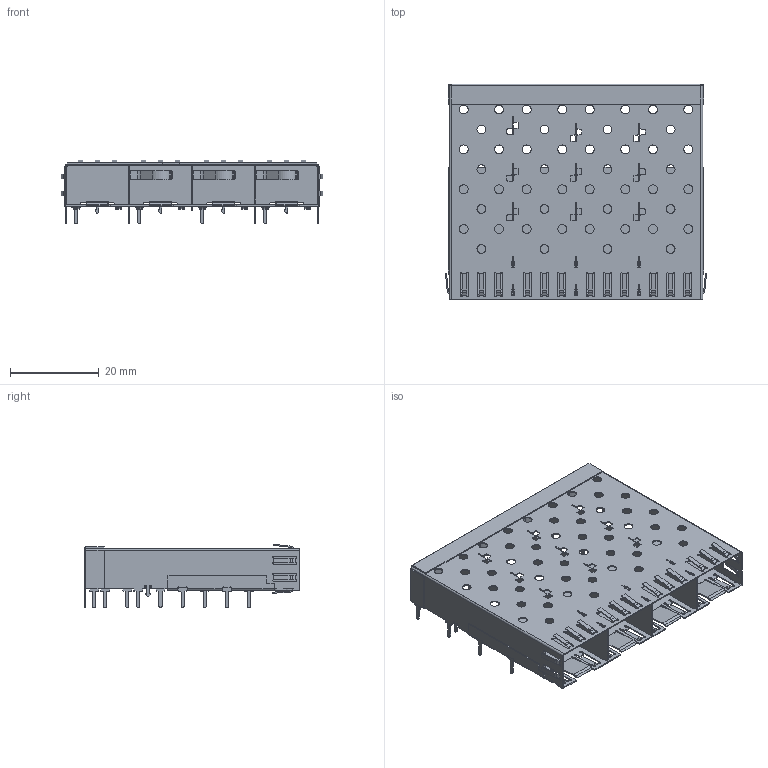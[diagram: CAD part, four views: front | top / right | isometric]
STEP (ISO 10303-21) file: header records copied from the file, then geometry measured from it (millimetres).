
FILE_DESCRIPTION (( 'STEP AP203' ), '1' );
FILE_NAME ('SFP 1X4 焊接式（3D-20230317）.STEP', '2023-03-17T08:32:07', ( '桑三博客' ), ( 'Www.SangSan.Cn' ), 'SwSTEP 2.0', 'SolidWorks 2018', '' );
FILE_SCHEMA (( 'CONFIG_CONTROL_DESIGN' ));
Products named in the file (1): SFP 1X4 焊接式（3D-20230317）
Bounding box: 59.04 x 48.75 x 14.33 mm (x, y, z)
Volume: 1855.5 mm3; surface area: 15331.8 mm2
Topology: 1 solids, 1 shells, 2072 faces, 6258 edges, 4111 vertices
Faces by surface type: cylinder 1031, plane 989, bspline 52
Entity records: 74018 total; most frequent: CARTESIAN_POINT 15679, ORIENTED_EDGE 12516, DIRECTION 12243, EDGE_CURVE 6258, AXIS2_PLACEMENT_3D 4113, VERTEX_POINT 4111, LINE 4017, VECTOR 4017
